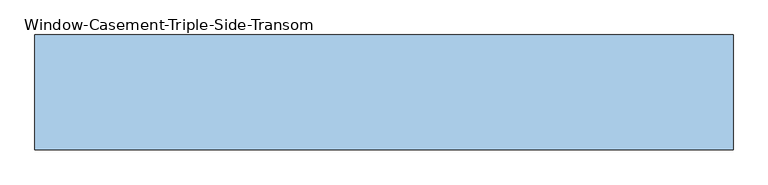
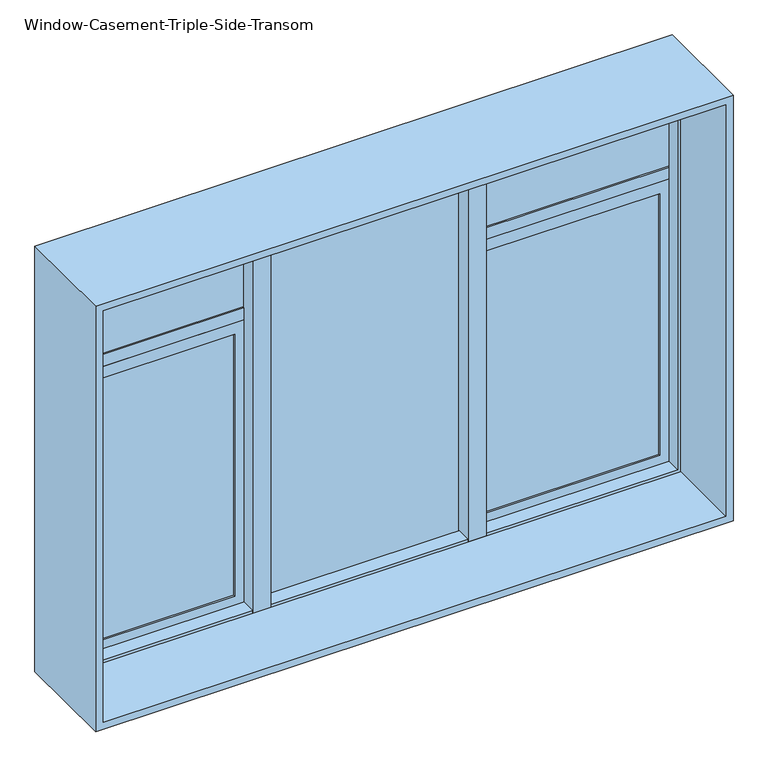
"""IFC4 building model written with IfcOpenShell, lengths in millimetres: window geometry."""

from ifc_helpers import new_model, si_unit, frame, origin, place, context, project, spatial, polyline, outline, extrude, faceted_brep, source, transform, mapped, element, save


def window_casement_triple_side_transom_c3c25feb(model_context):
    return source(origin(), model_context, "Body", "SolidModel", [
        extrude(outline(polyline([(-385.2333333, 161.925), (-385.2333333, 155.575), (-1054.1, 155.575), (-1054.1, 161.925), (-385.2333333, 161.925)])), frame((0.0, 0.0, 2002.1351562), z_axis=(0.0, 0.0, 1.0), x_axis=(1.0, 0.0, 0.0)), (0.0, 0.0, 1.0), 410.8648438),
        extrude(outline(polyline([(-385.2333333, 149.225), (-385.2333333, 142.875), (-1054.1, 142.875), (-1054.1, 149.225), (-385.2333333, 149.225)])), frame((0.0, 0.0, 2002.1351562), z_axis=(0.0, 0.0, 1.0), x_axis=(1.0, 0.0, 0.0)), (0.0, 0.0, 1.0), 410.8648438),
        extrude(outline(polyline([(1054.1, 161.925), (1054.1, 155.575), (385.2333333, 155.575), (385.2333333, 161.925), (1054.1, 161.925)])), frame((0.0, 0.0, 2002.1351562), z_axis=(0.0, 0.0, 1.0), x_axis=(1.0, 0.0, 0.0)), (0.0, 0.0, 1.0), 410.8648438),
        extrude(outline(polyline([(1054.1, 149.225), (1054.1, 142.875), (385.2333333, 142.875), (385.2333333, 149.225), (1054.1, 149.225)])), frame((0.0, 0.0, 2002.1351562), z_axis=(0.0, 0.0, 1.0), x_axis=(1.0, 0.0, 0.0)), (0.0, 0.0, 1.0), 410.8648438),
        extrude(outline(polyline([(-385.2333333, 168.275), (-385.2333333, 136.525), (-1054.1, 136.525), (-1054.1, 168.275), (-385.2333333, 168.275)])), frame((0.0, 0.0, 1960.2648438), z_axis=(0.0, 0.0, 1.0), x_axis=(1.0, 0.0, 0.0)), (0.0, 0.0, 1.0), 41.8703125),
        extrude(outline(polyline([(334.4333333, 161.925), (334.4333333, 155.575), (-334.4333333, 155.575), (-334.4333333, 161.925), (334.4333333, 161.925)])), frame((0.0, 0.0, 939.8), z_axis=(0.0, 0.0, 1.0), x_axis=(1.0, 0.0, 0.0)), (0.0, 0.0, 1.0), 1473.2),
        extrude(outline(polyline([(334.4333333, 149.225), (334.4333333, 142.875), (-334.4333333, 142.875), (-334.4333333, 149.225), (334.4333333, 149.225)])), frame((0.0, 0.0, 939.8), z_axis=(0.0, 0.0, 1.0), x_axis=(1.0, 0.0, 0.0)), (0.0, 0.0, 1.0), 1473.2),
        extrude(outline(polyline([(1054.1, 168.275), (1054.1, 136.525), (385.2333333, 136.525), (385.2333333, 168.275), (1054.1, 168.275)])), frame((0.0, 0.0, 1960.2648438), z_axis=(0.0, 0.0, 1.0), x_axis=(1.0, 0.0, 0.0)), (0.0, 0.0, 1.0), 41.8703125),
        extrude(outline(polyline([(-427.1036458, 161.925), (-427.1036458, 155.575), (-1012.2296875, 155.575), (-1012.2296875, 161.925), (-427.1036458, 161.925)])), frame((0.0, 0.0, 981.6703125), z_axis=(0.0, 0.0, 1.0), x_axis=(1.0, 0.0, 0.0)), (0.0, 0.0, 1.0), 936.7242188),
        extrude(outline(polyline([(-427.1036458, 149.225), (-427.1036458, 142.875), (-1012.2296875, 142.875), (-1012.2296875, 149.225), (-427.1036458, 149.225)])), frame((0.0, 0.0, 981.6703125), z_axis=(0.0, 0.0, 1.0), x_axis=(1.0, 0.0, 0.0)), (0.0, 0.0, 1.0), 936.7242188),
        extrude(outline(polyline([(1012.2296875, 161.925), (1012.2296875, 155.575), (427.1036458, 155.575), (427.1036458, 161.925), (1012.2296875, 161.925)])), frame((0.0, 0.0, 981.6703125), z_axis=(0.0, 0.0, 1.0), x_axis=(1.0, 0.0, 0.0)), (0.0, 0.0, 1.0), 936.7242188),
        extrude(outline(polyline([(1012.2296875, 149.225), (1012.2296875, 142.875), (427.1036458, 142.875), (427.1036458, 149.225), (1012.2296875, 149.225)])), frame((0.0, 0.0, 981.6703125), z_axis=(0.0, 0.0, 1.0), x_axis=(1.0, 0.0, 0.0)), (0.0, 0.0, 1.0), 936.7242188),
        extrude(outline(polyline([(1960.2648438, -1054.1), (939.8, -1054.1), (939.8, -385.2333333), (1960.2648438, -385.2333333), (1960.2648438, -1054.1)]), holes=[polyline([(1918.3945313, -427.1036458), (981.6703125, -427.1036458), (981.6703125, -1012.2296875), (1918.3945313, -1012.2296875), (1918.3945313, -427.1036458)])]), frame((0.0, 136.525, 0.0), z_axis=(0.0, 1.0, 0.0), x_axis=(0.0, 0.0, 1.0)), (0.0, 0.0, 1.0), 31.75),
        extrude(outline(polyline([(1960.2648438, 385.2333333), (939.8, 385.2333333), (939.8, 1054.1), (1960.2648438, 1054.1), (1960.2648438, 385.2333333)]), holes=[polyline([(1918.3945313, 1012.2296875), (981.6703125, 1012.2296875), (981.6703125, 427.1036458), (1918.3945313, 427.1036458), (1918.3945313, 1012.2296875)])]), frame((0.0, 136.525, 0.0), z_axis=(0.0, 1.0, 0.0), x_axis=(0.0, 0.0, 1.0)), (0.0, 0.0, 1.0), 31.75),
        extrude(outline(polyline([(-334.4333333, 174.625), (-334.4333333, 85.725), (-395.3536458, 85.725), (-395.3536458, 136.525), (-385.2333333, 136.525), (-385.2333333, 174.625), (-334.4333333, 174.625)])), frame((0.0, 0.0, 939.8), z_axis=(0.0, 0.0, 1.0), x_axis=(1.0, 0.0, 0.0)), (0.0, 0.0, 1.0), 1473.2),
        extrude(outline(polyline([(385.2333333, 174.625), (385.2333333, 136.525), (395.3536458, 136.525), (395.3536458, 85.725), (334.4333333, 85.725), (334.4333333, 174.625), (385.2333333, 174.625)])), frame((0.0, 0.0, 939.8), z_axis=(0.0, 0.0, 1.0), x_axis=(1.0, 0.0, 0.0)), (0.0, 0.0, 1.0), 1473.2),
        faceted_brep([(-1054.1, 136.525, 2413.0), (-1054.1, 177.8, 2413.0), (1054.1, 177.8, 2413.0), (1054.1, 136.525, 2413.0), (-1043.9796875, 85.725, 2402.8796875), (-1043.9796875, 136.525, 2402.8796875), (1043.9796875, 136.525, 2402.8796875), (1043.9796875, 85.725, 2402.8796875), (-1054.1, -177.8, 2413.0), (-1054.1, 85.725, 2413.0), (1054.1, 85.725, 2413.0), (1054.1, -177.8, 2413.0), (-1079.5, 177.8, 2438.4), (-1079.5, -177.8, 2438.4), (1079.5, -177.8, 2438.4), (1079.5, 177.8, 2438.4), (1054.1, 177.8, 939.8), (1054.1, 136.525, 939.8), (1043.9796875, 136.525, 949.9203125), (1043.9796875, 85.725, 949.9203125), (1054.1, 85.725, 939.8), (1054.1, -177.8, 939.8), (1079.5, -177.8, 914.4), (1079.5, 177.8, 914.4), (-1054.1, 177.8, 939.8), (-1054.1, 136.525, 939.8), (-1043.9796875, 136.525, 949.9203125), (-1043.9796875, 85.725, 949.9203125), (-1054.1, 85.725, 939.8), (-1054.1, -177.8, 939.8), (-1079.5, -177.8, 914.4), (-1079.5, 177.8, 914.4)], [[[0, 1, 2, 3]], [[4, 5, 6, 7]], [[8, 9, 10, 11]], [[12, 13, 14, 15]], [[3, 2, 16, 17]], [[7, 6, 18, 19]], [[11, 10, 20, 21]], [[15, 14, 22, 23]], [[17, 16, 24, 25]], [[19, 18, 26, 27]], [[21, 20, 28, 29]], [[23, 22, 30, 31]], [[25, 24, 1, 0]], [[3, 17, 25, 0], [5, 26, 18, 6]], [[27, 26, 5, 4]], [[9, 28, 20, 10], [7, 19, 27, 4]], [[29, 28, 9, 8]], [[13, 30, 22, 14], [11, 21, 29, 8]], [[31, 30, 13, 12]], [[15, 23, 31, 12], [1, 24, 16, 2]]]),
    ])


if __name__ == "__main__":
    model = new_model("IFC4")
    model_context = context("Model", 3, world=origin())
    ifc_project = project(units=[si_unit("LENGTHUNIT", "METRE", prefix="MILLI")], contexts=[model_context])
    site = spatial("IfcSite", under=ifc_project)
    building = spatial("IfcBuilding", under=site)
    placement = place(None, origin())
    window_casement_triple_side_transom_shape = window_casement_triple_side_transom_c3c25feb(model_context)
    element("IfcWindow", 1, ObjectType="Window-Casement-Triple-Side-Transom : Triple Side WIndow_B_85\" x 60\"", at=placement, inside=building, context=model_context, shape_type="MappedRepresentation", body=[
        mapped(window_casement_triple_side_transom_shape, transform((0.0, 0.0, 0.0), x_axis=(1.0, 0.0, 0.0), y_axis=(0.0, 1.0, 0.0), z_axis=(0.0, 0.0, 1.0))),
    ])
    save(model, "model.ifc")
